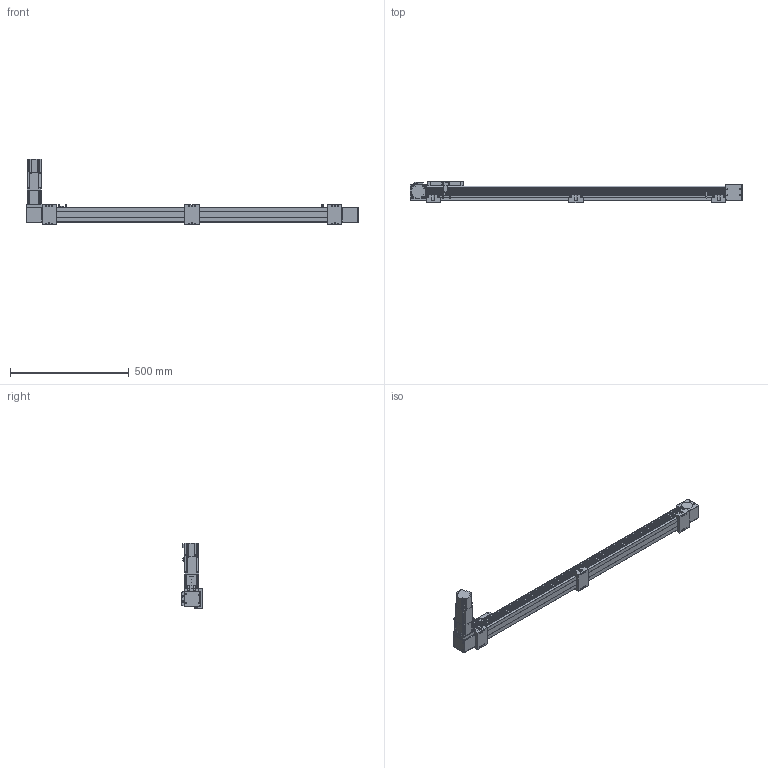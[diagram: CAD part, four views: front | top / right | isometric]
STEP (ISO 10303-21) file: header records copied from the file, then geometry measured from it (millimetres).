
FILE_DESCRIPTION(/* description */ ('STEP AP203'),/* implementation_level */ '2;1');
FILE_NAME(/* name */ 'SK60-P13-S1100-BL-T40-C1-N(0)',/* time_stamp */ '2023-04-06T03:36:41+02:00',/* author */ ('License CC BY-ND 4.0'),/* organization */ ('CADENAS'),/* preprocessor_version */ 'ST-DEVELOPER v19.3',/* originating_system */ 'PARTsolutions',/* authorisation */ ' ');
FILE_SCHEMA (('CONFIG_CONTROL_DESIGN'));
Length unit declared in the file: millimetre
Products named in the file (11): SK60-P13-S1100-BL-T40-C1-N(0); PSC140-sensor; SK60-S450_seat; SK60-S450-BL-C1_slider; SK60_body3; SK60_body6; SK60-BL_body2; T40-p1; SK60_body5; SK60_body4; SK60-S1100-BL-C1_body
Assembly tree (18 placements, depth 2):
  SK60-P13-S1100-BL-T40-C1-N(0)
    PSC140-sensor  x3
    SK60-S450_seat  x3
    SK60-S450-BL-C1_slider
    SK60_body3  x3
    SK60_body6  x2
    SK60-BL_body2  x2
    T40-p1
    SK60_body5
    SK60_body4
    SK60-S1100-BL-C1_body
Bounding box: 1400 x 90 x 278.2 mm (x, y, z)
Volume: 5383969.2 mm3; surface area: 721341.8 mm2
Topology: 18 solids, 22 shells, 878 faces, 2207 edges, 1458 vertices
Faces by surface type: plane 568, cylinder 282, cone 26, torus 2
Full cylindrical faces by diameter (mm): 2.8 x3, 3.3 x4, 4.2 x8, 4.5 x26, 4.6 x3, 4.917 x20, 5 x2, 5.478 x4, 5.5 x23, 6.5 x6, 8 x4, 8.5 x4, 9.988 x4, 10 x12, 13.556 x1, 14 x1, 14.586 x1, 19.692 x1, 38.432 x2, 43 x1, 44 x3, 47 x2, 50 x2
Entity records: 19379 total; most frequent: DIRECTION 3294, CARTESIAN_POINT 3290, ORIENTED_EDGE 3050, EDGE_CURVE 1525, AXIS2_PLACEMENT_3D 1101, LINE 1092, VECTOR 1092, VERTEX_POINT 1077
